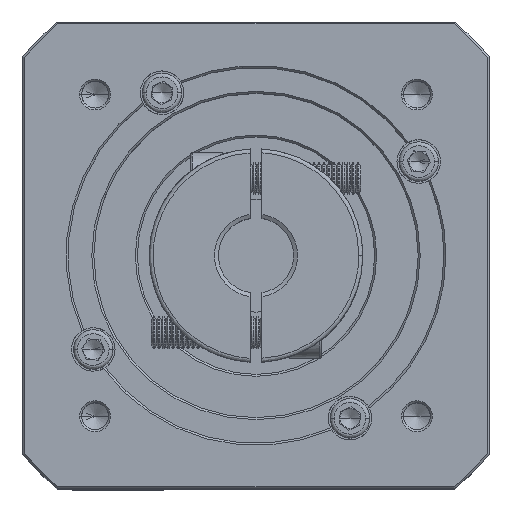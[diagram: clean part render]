
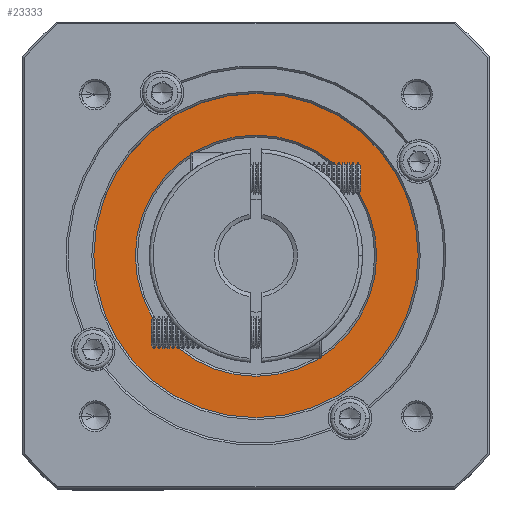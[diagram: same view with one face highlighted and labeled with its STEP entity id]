
A CAD part, top view. The second image highlights one B-rep face of the part: STEP entity #23333.
In plain terms, the highlighted planar face has unit normal (0, 0, 1).
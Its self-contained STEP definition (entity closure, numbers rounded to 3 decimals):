
#3486 = CIRCLE ( 'NONE', #96029, 41. ) ;
#5774 = VERTEX_POINT ( 'NONE', #70966 ) ;
#6230 = DIRECTION ( 'NONE',  ( 1., 0., 0. ) ) ;
#6299 = ORIENTED_EDGE ( 'NONE', *, *, #17447, .T. ) ;
#14568 = EDGE_LOOP ( 'NONE', ( #39212, #51254 ) ) ;
#16749 = VERTEX_POINT ( 'NONE', #28495 ) ;
#17447 = EDGE_CURVE ( 'NONE', #29574, #114710, #69287, .T. ) ;
#21829 = CARTESIAN_POINT ( 'NONE',  ( 72.343, -80.873, -54.022 ) ) ;
#23333 = ADVANCED_FACE ( 'NONE', ( #38191, #76089 ), #95665, .T. ) ;
#27023 = EDGE_CURVE ( 'NONE', #114710, #29574, #3486, .T. ) ;
#28495 = CARTESIAN_POINT ( 'NONE',  ( 72.343, -111.373, -54.022 ) ) ;
#29574 = VERTEX_POINT ( 'NONE', #80900 ) ;
#38191 = FACE_OUTER_BOUND ( 'NONE', #39114, .T. ) ;
#39114 = EDGE_LOOP ( 'NONE', ( #6299, #109136 ) ) ;
#39212 = ORIENTED_EDGE ( 'NONE', *, *, #111795, .T. ) ;
#40440 = DIRECTION ( 'NONE',  ( 0., 0., -1. ) ) ;
#42714 = DIRECTION ( 'NONE',  ( 0., 0., 1. ) ) ;
#47229 = CARTESIAN_POINT ( 'NONE',  ( 31.343, -80.873, -54.022 ) ) ;
#51254 = ORIENTED_EDGE ( 'NONE', *, *, #66211, .T. ) ;
#56881 = CARTESIAN_POINT ( 'NONE',  ( 72.343, -80.873, -54.022 ) ) ;
#58640 = DIRECTION ( 'NONE',  ( 0., -1., 0. ) ) ;
#60940 = CIRCLE ( 'NONE', #70165, 30.5 ) ;
#62258 = CIRCLE ( 'NONE', #81004, 30.5 ) ;
#66211 = EDGE_CURVE ( 'NONE', #5774, #16749, #60940, .T. ) ;
#68595 = AXIS2_PLACEMENT_3D ( 'NONE', #78799, #42714, #6230 ) ;
#69287 = CIRCLE ( 'NONE', #72381, 41. ) ;
#70165 = AXIS2_PLACEMENT_3D ( 'NONE', #21829, #84202, #58640 ) ;
#70966 = CARTESIAN_POINT ( 'NONE',  ( 72.343, -50.373, -54.022 ) ) ;
#72381 = AXIS2_PLACEMENT_3D ( 'NONE', #56881, #75754, #101573 ) ;
#75754 = DIRECTION ( 'NONE',  ( 0., 0., 1. ) ) ;
#75781 = CARTESIAN_POINT ( 'NONE',  ( 72.343, -80.873, -54.022 ) ) ;
#76089 = FACE_BOUND ( 'NONE', #14568, .T. ) ;
#78334 = CARTESIAN_POINT ( 'NONE',  ( 72.343, -80.873, -54.022 ) ) ;
#78799 = CARTESIAN_POINT ( 'NONE',  ( 72.343, -80.873, -54.022 ) ) ;
#80900 = CARTESIAN_POINT ( 'NONE',  ( 113.343, -80.873, -54.022 ) ) ;
#81004 = AXIS2_PLACEMENT_3D ( 'NONE', #75781, #40440, #85533 ) ;
#84202 = DIRECTION ( 'NONE',  ( 0., 0., -1. ) ) ;
#85533 = DIRECTION ( 'NONE',  ( 0., -1., 0. ) ) ;
#95665 = PLANE ( 'NONE',  #68595 ) ;
#96029 = AXIS2_PLACEMENT_3D ( 'NONE', #78334, #105342, #105746 ) ;
#101573 = DIRECTION ( 'NONE',  ( 1., 0., 0. ) ) ;
#105342 = DIRECTION ( 'NONE',  ( 0., 0., 1. ) ) ;
#105746 = DIRECTION ( 'NONE',  ( 1., 0., 0. ) ) ;
#109136 = ORIENTED_EDGE ( 'NONE', *, *, #27023, .T. ) ;
#111795 = EDGE_CURVE ( 'NONE', #16749, #5774, #62258, .T. ) ;
#114710 = VERTEX_POINT ( 'NONE', #47229 ) ;
